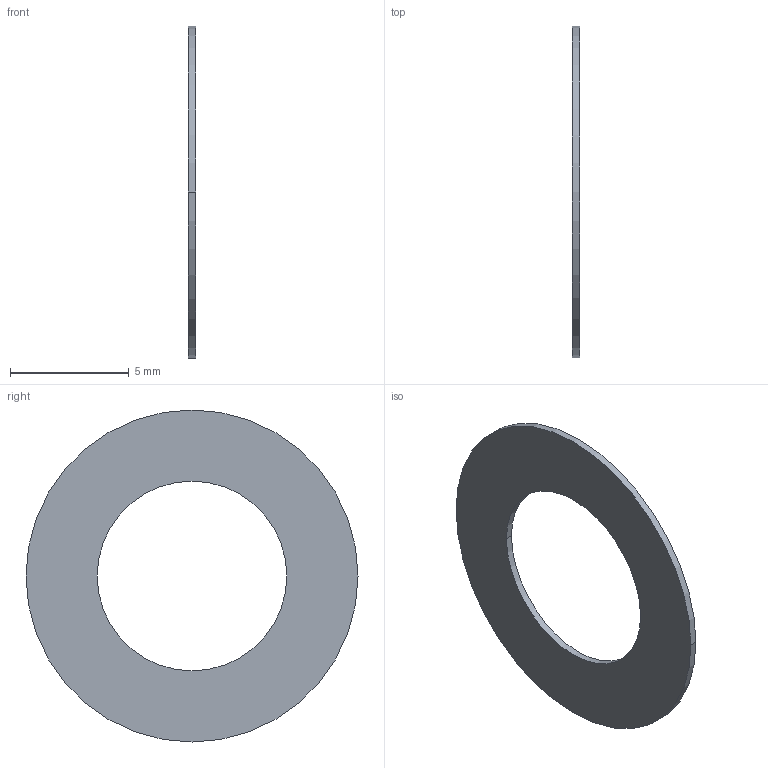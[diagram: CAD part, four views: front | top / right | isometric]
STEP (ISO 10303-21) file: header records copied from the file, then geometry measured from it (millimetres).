
FILE_DESCRIPTION(/* description */ ('VariCAD 2010-3.03 AP-214'),/* implementation_level */ '2;1');
FILE_NAME(/* name */ '0353-94-63',/* time_stamp */ '2011-06-29T15:09:33-06:00',/* author */ (''),/* organization */ (''),/* preprocessor_version */ 'ST-DEVELOPER v12',/* originating_system */ 'VariCAD 2010-3.03; kernel version (20100102)',/* authorisation */ '');
FILE_SCHEMA (('AUTOMOTIVE_DESIGN'));
Length unit declared in the file: millimetre
Products named in the file (1): Part
Bounding box: 0.3 x 14 x 14 mm (x, y, z)
Volume: 31.1 mm3; surface area: 228.1 mm2
Topology: 1 solids, 1 shells, 6 faces, 12 edges, 8 vertices
Faces by surface type: cylinder 4, plane 2
Entity records: 195 total; most frequent: DIRECTION 36, CARTESIAN_POINT 28, ORIENTED_EDGE 24, AXIS2_PLACEMENT_3D 16, EDGE_CURVE 12, EDGE_LOOP 8, CIRCLE 8, VERTEX_POINT 8
